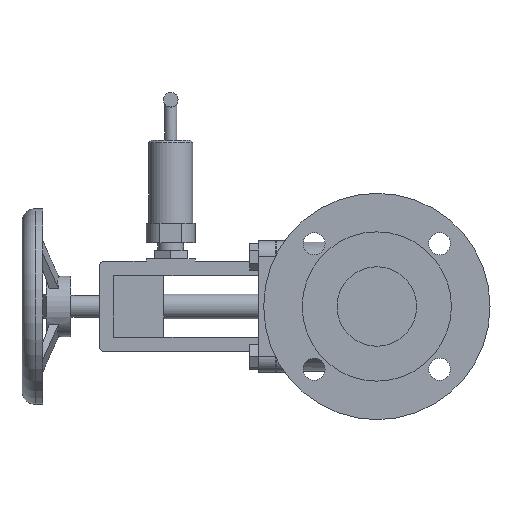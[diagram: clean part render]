
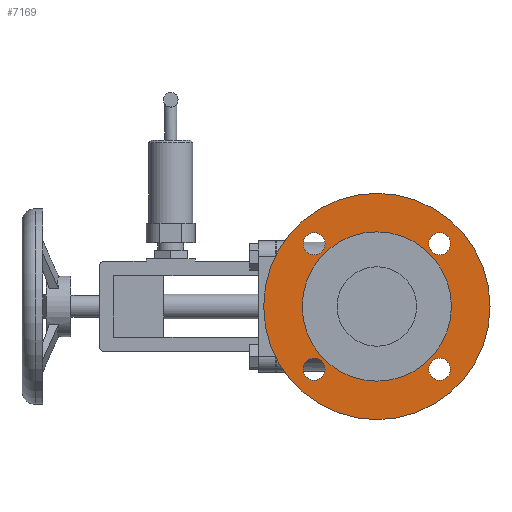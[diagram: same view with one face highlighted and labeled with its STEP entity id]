
A CAD part, left-side view. The second image highlights one B-rep face of the part: STEP entity #7169.
In plain terms, the highlighted planar face has unit normal (-1, 0, 0).
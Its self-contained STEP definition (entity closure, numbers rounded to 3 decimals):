
#337=PLANE('',#7607);
#403=FACE_BOUND('',#1360,.T.);
#404=FACE_BOUND('',#1361,.T.);
#405=FACE_BOUND('',#1362,.T.);
#406=FACE_BOUND('',#1363,.T.);
#407=FACE_BOUND('',#1364,.T.);
#935=FACE_OUTER_BOUND('',#1359,.T.);
#1359=EDGE_LOOP('',(#6317));
#1360=EDGE_LOOP('',(#6318));
#1361=EDGE_LOOP('',(#6319));
#1362=EDGE_LOOP('',(#6320));
#1363=EDGE_LOOP('',(#6321));
#1364=EDGE_LOOP('',(#6322));
#2813=CIRCLE('',#7532,92.5);
#2816=CIRCLE('',#7536,9.);
#2818=CIRCLE('',#7539,9.);
#2820=CIRCLE('',#7542,9.);
#2822=CIRCLE('',#7545,9.);
#2823=CIRCLE('',#7547,61.);
#3393=VERTEX_POINT('',#12242);
#3396=VERTEX_POINT('',#12250);
#3398=VERTEX_POINT('',#12256);
#3400=VERTEX_POINT('',#12262);
#3402=VERTEX_POINT('',#12268);
#3403=VERTEX_POINT('',#12272);
#4313=EDGE_CURVE('',#3393,#3393,#2813,.T.);
#4318=EDGE_CURVE('',#3396,#3396,#2816,.T.);
#4321=EDGE_CURVE('',#3398,#3398,#2818,.T.);
#4324=EDGE_CURVE('',#3400,#3400,#2820,.T.);
#4327=EDGE_CURVE('',#3402,#3402,#2822,.T.);
#4328=EDGE_CURVE('',#3403,#3403,#2823,.T.);
#6317=ORIENTED_EDGE('',*,*,#4313,.F.);
#6318=ORIENTED_EDGE('',*,*,#4321,.F.);
#6319=ORIENTED_EDGE('',*,*,#4324,.F.);
#6320=ORIENTED_EDGE('',*,*,#4327,.F.);
#6321=ORIENTED_EDGE('',*,*,#4318,.F.);
#6322=ORIENTED_EDGE('',*,*,#4328,.F.);
#7169=ADVANCED_FACE('',(#935,#403,#404,#405,#406,#407),#337,.F.);
#7532=AXIS2_PLACEMENT_3D('',#12243,#8841,#8842);
#7536=AXIS2_PLACEMENT_3D('',#12252,#8851,#8852);
#7539=AXIS2_PLACEMENT_3D('',#12258,#8858,#8859);
#7542=AXIS2_PLACEMENT_3D('',#12264,#8865,#8866);
#7545=AXIS2_PLACEMENT_3D('',#12270,#8872,#8873);
#7547=AXIS2_PLACEMENT_3D('',#12273,#8876,#8877);
#7607=AXIS2_PLACEMENT_3D('',#12493,#9087,#9088);
#8841=DIRECTION('center_axis',(1.,0.,0.));
#8842=DIRECTION('ref_axis',(0.,0.,-1.));
#8851=DIRECTION('center_axis',(-1.,0.,0.));
#8852=DIRECTION('ref_axis',(0.,0.,-1.));
#8858=DIRECTION('center_axis',(-1.,0.,0.));
#8859=DIRECTION('ref_axis',(0.,0.,-1.));
#8865=DIRECTION('center_axis',(-1.,0.,0.));
#8866=DIRECTION('ref_axis',(0.,0.,-1.));
#8872=DIRECTION('center_axis',(-1.,0.,0.));
#8873=DIRECTION('ref_axis',(0.,0.,-1.));
#8876=DIRECTION('center_axis',(-1.,0.,0.));
#8877=DIRECTION('ref_axis',(0.,1.,0.));
#9087=DIRECTION('center_axis',(1.,0.,0.));
#9088=DIRECTION('ref_axis',(0.,0.,-1.));
#12242=CARTESIAN_POINT('',(-145.878,-73.646,51.25));
#12243=CARTESIAN_POINT('Origin',(-145.878,-73.646,-41.25));
#12250=CARTESIAN_POINT('',(-145.878,-22.38,-83.515));
#12252=CARTESIAN_POINT('Origin',(-145.878,-22.38,-92.515));
#12256=CARTESIAN_POINT('',(-145.878,-124.911,-83.515));
#12258=CARTESIAN_POINT('Origin',(-145.878,-124.911,-92.515));
#12262=CARTESIAN_POINT('',(-145.878,-22.38,19.015));
#12264=CARTESIAN_POINT('Origin',(-145.878,-22.38,10.015));
#12268=CARTESIAN_POINT('',(-145.878,-124.911,19.015));
#12270=CARTESIAN_POINT('Origin',(-145.878,-124.911,10.015));
#12272=CARTESIAN_POINT('',(-145.878,-134.646,-41.25));
#12273=CARTESIAN_POINT('Origin',(-145.878,-73.646,-41.25));
#12493=CARTESIAN_POINT('Origin',(-145.878,3.104,-41.25));
